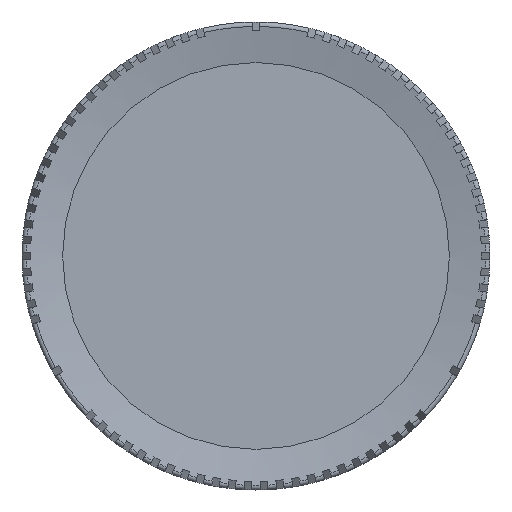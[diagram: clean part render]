
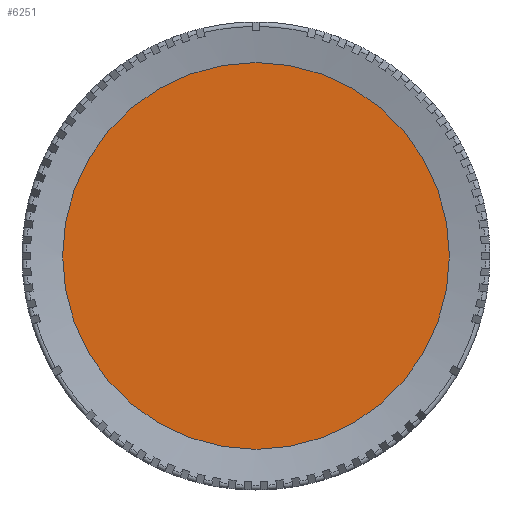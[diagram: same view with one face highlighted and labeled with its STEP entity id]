
A CAD part, top view. The second image highlights one B-rep face of the part: STEP entity #6251.
In plain terms, the highlighted planar face has unit normal (0, 0, 1) as drawn and (0, 1, 0) by its records, which use the part's own axes.
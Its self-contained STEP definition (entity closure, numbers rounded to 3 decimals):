
#455=PLANE('',#6714);
#742=FACE_OUTER_BOUND('',#1098,.T.);
#1098=EDGE_LOOP('',(#4391));
#2405=CIRCLE('',#6715,15.5);
#2615=VERTEX_POINT('',#9839);
#3308=EDGE_CURVE('',#2615,#2615,#2405,.T.);
#4391=ORIENTED_EDGE('',*,*,#3308,.T.);
#6251=ADVANCED_FACE('',(#742),#455,.T.);
#6714=AXIS2_PLACEMENT_3D('',#9838,#7461,#7462);
#6715=AXIS2_PLACEMENT_3D('',#9840,#7463,#7464);
#7461=DIRECTION('center_axis',(0.,1.,0.));
#7462=DIRECTION('ref_axis',(0.,0.,1.));
#7463=DIRECTION('center_axis',(0.,1.,0.));
#7464=DIRECTION('ref_axis',(-1.,0.,0.));
#9838=CARTESIAN_POINT('Origin',(-7.75,6.9,0.));
#9839=CARTESIAN_POINT('',(15.5,6.9,0.));
#9840=CARTESIAN_POINT('Origin',(0.,6.9,0.));
